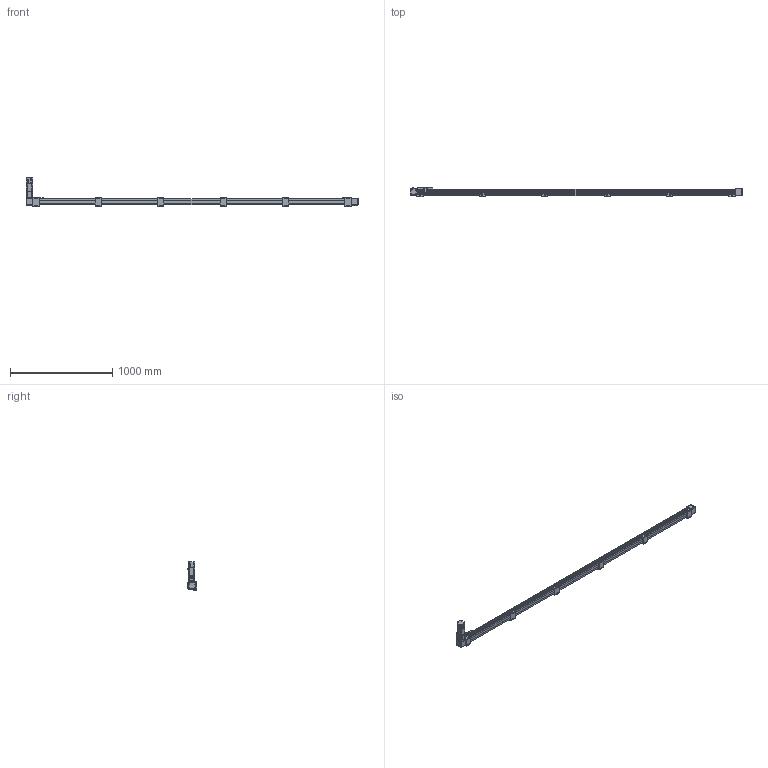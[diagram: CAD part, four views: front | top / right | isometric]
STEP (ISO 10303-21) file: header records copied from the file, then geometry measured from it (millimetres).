
FILE_DESCRIPTION(/* description */ ('STEP AP203'),/* implementation_level */ '2;1');
FILE_NAME(/* name */ 'SK60-P13-S2950-BL-T40-C1-N(0)',/* time_stamp */ '2023-04-06T03:38:23+02:00',/* author */ ('License CC BY-ND 4.0'),/* organization */ ('CADENAS'),/* preprocessor_version */ 'ST-DEVELOPER v19.3',/* originating_system */ 'PARTsolutions',/* authorisation */ ' ');
FILE_SCHEMA (('CONFIG_CONTROL_DESIGN'));
Length unit declared in the file: millimetre
Products named in the file (11): SK60-P13-S2950-BL-T40-C1-N(0); PSC140-sensor; SK60-S450_seat; SK60-S450-BL-C1_slider; SK60_body3; SK60_body6; SK60-BL_body2; T40-p1; SK60_body5; SK60_body4; SK60-S2950-BL-C1_body
Assembly tree (21 placements, depth 2):
  SK60-P13-S2950-BL-T40-C1-N(0)
    PSC140-sensor  x3
    SK60-S450_seat  x6
    SK60-S450-BL-C1_slider
    SK60_body3  x3
    SK60_body6  x2
    SK60-BL_body2  x2
    T40-p1
    SK60_body5
    SK60_body4
    SK60-S2950-BL-C1_body
Bounding box: 3250 x 90 x 278.2 mm (x, y, z)
Volume: 11619236.1 mm3; surface area: 1396124.1 mm2
Topology: 21 solids, 25 shells, 1010 faces, 2501 edges, 1650 vertices
Faces by surface type: plane 640, cylinder 330, cone 38, torus 2
Full cylindrical faces by diameter (mm): 2.8 x3, 3.3 x4, 4.2 x8, 4.5 x26, 4.6 x3, 4.917 x32, 5 x2, 5.478 x4, 5.5 x35, 6.5 x12, 8 x4, 8.5 x4, 9.988 x4, 10 x24, 13.556 x1, 14 x1, 14.586 x1, 19.692 x1, 38.432 x2, 43 x1, 44 x3, 47 x2, 50 x2
Entity records: 19403 total; most frequent: DIRECTION 3300, CARTESIAN_POINT 3293, ORIENTED_EDGE 3050, EDGE_CURVE 1525, AXIS2_PLACEMENT_3D 1104, LINE 1092, VECTOR 1092, VERTEX_POINT 1077
